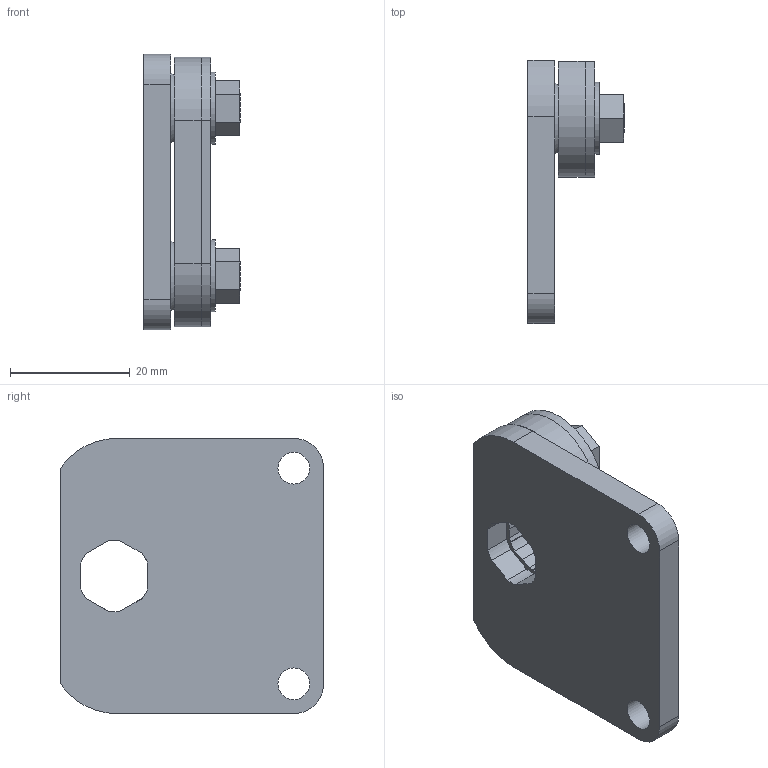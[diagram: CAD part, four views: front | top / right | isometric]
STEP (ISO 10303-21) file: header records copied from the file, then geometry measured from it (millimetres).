
FILE_DESCRIPTION(/* description */ (''),/* implementation_level */ '2;1');
FILE_NAME(/* name */ '\\192.168.101.115\営業本部\EG\X2\30BB30F330BF30FC\X0\\99_各個人\08_中村紗\３Ｄ\No.MBC-071.stp',/* time_stamp */ '2015-11-17T11:28:00+09:00',/* author */ ('UMME'),/* organization */ (''),/* preprocessor_version */ 'ST-DEVELOPER v15.2',/* originating_system */ 'Autodesk Inventor 2014',/* authorisation */ '');
FILE_SCHEMA (('AUTOMOTIVE_DESIGN { 1 0 10303 214 3 1 1 }'));
Length unit declared in the file: millimetre
Products named in the file (1): 取付金具No.MBC-071
Bounding box: 16.1 x 44 x 46 mm (x, y, z)
Volume: 13199.4 mm3; surface area: 8676.5 mm2
Topology: 2 solids, 2 shells, 112 faces, 298 edges, 198 vertices
Faces by surface type: plane 68, cylinder 40, cone 4
Full cylindrical faces by diameter (mm): 5 x4, 5.3 x2, 12 x2
Entity records: 3498 total; most frequent: DIRECTION 598, CARTESIAN_POINT 597, ORIENTED_EDGE 572, EDGE_CURVE 286, LINE 200, VECTOR 200, AXIS2_PLACEMENT_3D 199, VERTEX_POINT 198
